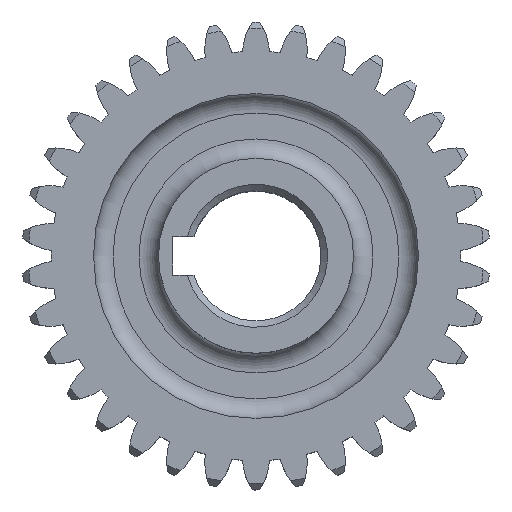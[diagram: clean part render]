
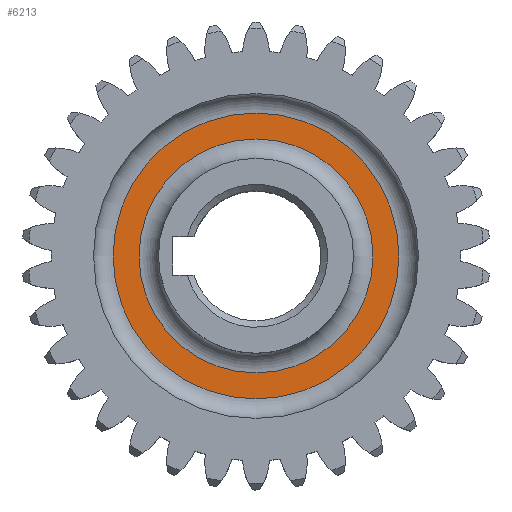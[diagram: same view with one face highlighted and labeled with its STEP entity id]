
A CAD part, top view. The second image highlights one B-rep face of the part: STEP entity #6213.
In plain terms, the highlighted planar face has unit normal (0, 0, 1).
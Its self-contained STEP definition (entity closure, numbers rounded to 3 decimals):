
#257=FACE_BOUND('',#1349,.T.);
#268=PLANE('',#6670);
#986=FACE_OUTER_BOUND('',#1348,.T.);
#1348=EDGE_LOOP('',(#4135));
#1349=EDGE_LOOP('',(#4136));
#1799=CIRCLE('',#6668,18.);
#1801=CIRCLE('',#6671,22.);
#2387=VERTEX_POINT('',#9830);
#2389=VERTEX_POINT('',#9835);
#3086=EDGE_CURVE('',#2387,#2387,#1799,.T.);
#3088=EDGE_CURVE('',#2389,#2389,#1801,.T.);
#4135=ORIENTED_EDGE('',*,*,#3088,.F.);
#4136=ORIENTED_EDGE('',*,*,#3086,.F.);
#6213=ADVANCED_FACE('',(#986,#257),#268,.T.);
#6668=AXIS2_PLACEMENT_3D('',#9831,#7717,#7718);
#6670=AXIS2_PLACEMENT_3D('',#9834,#7721,#7722);
#6671=AXIS2_PLACEMENT_3D('',#9836,#7723,#7724);
#7717=DIRECTION('center_axis',(0.,0.,1.));
#7718=DIRECTION('ref_axis',(-1.,0.,0.));
#7721=DIRECTION('center_axis',(0.,0.,1.));
#7722=DIRECTION('ref_axis',(1.,0.,0.));
#7723=DIRECTION('center_axis',(0.,0.,-1.));
#7724=DIRECTION('ref_axis',(-1.,0.,0.));
#9830=CARTESIAN_POINT('',(18.,0.,2.));
#9831=CARTESIAN_POINT('Origin',(0.,0.,2.));
#9834=CARTESIAN_POINT('Origin',(0.,0.,
2.));
#9835=CARTESIAN_POINT('',(22.,0.,2.));
#9836=CARTESIAN_POINT('Origin',(0.,0.,2.));
